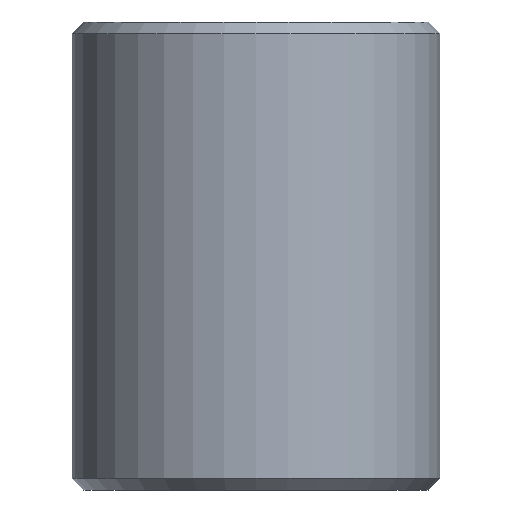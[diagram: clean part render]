
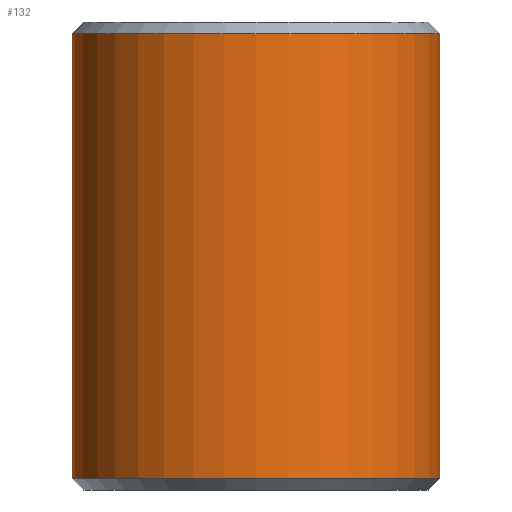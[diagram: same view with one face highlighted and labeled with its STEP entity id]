
A CAD part, front view. The second image highlights one B-rep face of the part: STEP entity #132.
In plain terms, the highlighted cylindrical face has radius 55 mm (diameter 110 mm), a partial arc.
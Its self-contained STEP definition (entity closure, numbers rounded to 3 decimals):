
#5 = VERTEX_POINT ( 'NONE', #394 ) ;
#10 = EDGE_CURVE ( 'NONE', #208, #5, #197, .T. ) ;
#12 = ORIENTED_EDGE ( 'NONE', *, *, #400, .T. ) ;
#19 = DIRECTION ( 'NONE',  ( -1., 0., 0. ) ) ;
#34 = CARTESIAN_POINT ( 'NONE',  ( 55., 0., 70. ) ) ;
#60 = LINE ( 'NONE', #342, #314 ) ;
#61 = AXIS2_PLACEMENT_3D ( 'NONE', #195, #445, #127 ) ;
#74 = ORIENTED_EDGE ( 'NONE', *, *, #443, .F. ) ;
#81 = DIRECTION ( 'NONE',  ( 0., 0., 1. ) ) ;
#84 = VERTEX_POINT ( 'NONE', #116 ) ;
#116 = CARTESIAN_POINT ( 'NONE',  ( 55., 0., 66.5 ) ) ;
#119 = CIRCLE ( 'NONE', #61, 55. ) ;
#127 = DIRECTION ( 'NONE',  ( 1., 0., 0. ) ) ;
#132 = ADVANCED_FACE ( 'NONE', ( #149 ), #324, .T. ) ;
#134 = LINE ( 'NONE', #34, #296 ) ;
#149 = FACE_OUTER_BOUND ( 'NONE', #315, .T. ) ;
#153 = CARTESIAN_POINT ( 'NONE',  ( 0., 0., 70. ) ) ;
#168 = ORIENTED_EDGE ( 'NONE', *, *, #10, .T. ) ;
#195 = CARTESIAN_POINT ( 'NONE',  ( 0., 0., 66.5 ) ) ;
#197 = CIRCLE ( 'NONE', #378, 55. ) ;
#208 = VERTEX_POINT ( 'NONE', #219 ) ;
#210 = DIRECTION ( 'NONE',  ( 0., 0., -1. ) ) ;
#219 = CARTESIAN_POINT ( 'NONE',  ( -55., 0., -66.5 ) ) ;
#224 = CARTESIAN_POINT ( 'NONE',  ( -55., 0., 66.5 ) ) ;
#241 = DIRECTION ( 'NONE',  ( 0., 0., -1. ) ) ;
#278 = DIRECTION ( 'NONE',  ( 0., 0., -1. ) ) ;
#296 = VECTOR ( 'NONE', #241, 1000. ) ;
#314 = VECTOR ( 'NONE', #278, 1000. ) ;
#315 = EDGE_LOOP ( 'NONE', ( #74, #12, #355, #168 ) ) ;
#324 = CYLINDRICAL_SURFACE ( 'NONE', #448, 55. ) ;
#342 = CARTESIAN_POINT ( 'NONE',  ( -55., 0., 70. ) ) ;
#355 = ORIENTED_EDGE ( 'NONE', *, *, #415, .T. ) ;
#364 = VERTEX_POINT ( 'NONE', #224 ) ;
#368 = DIRECTION ( 'NONE',  ( 1., 0., 0. ) ) ;
#378 = AXIS2_PLACEMENT_3D ( 'NONE', #398, #81, #368 ) ;
#394 = CARTESIAN_POINT ( 'NONE',  ( 55., 0., -66.5 ) ) ;
#398 = CARTESIAN_POINT ( 'NONE',  ( 0., 0., -66.5 ) ) ;
#400 = EDGE_CURVE ( 'NONE', #84, #364, #119, .T. ) ;
#415 = EDGE_CURVE ( 'NONE', #364, #208, #60, .T. ) ;
#443 = EDGE_CURVE ( 'NONE', #84, #5, #134, .T. ) ;
#445 = DIRECTION ( 'NONE',  ( 0., 0., -1. ) ) ;
#448 = AXIS2_PLACEMENT_3D ( 'NONE', #153, #210, #19 ) ;
